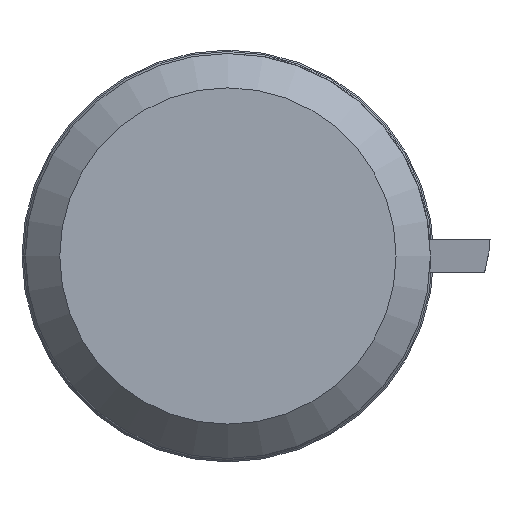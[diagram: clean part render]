
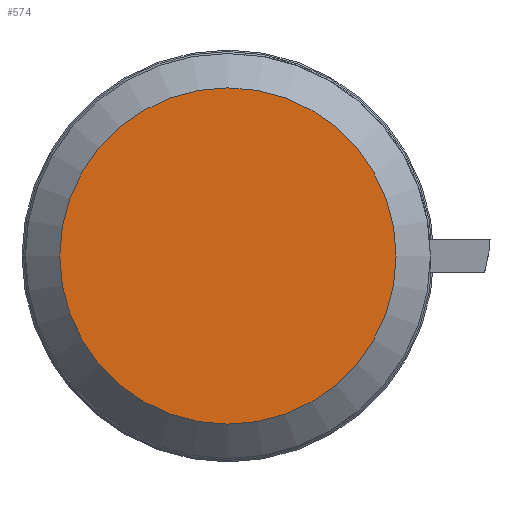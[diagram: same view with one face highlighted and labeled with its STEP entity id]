
A CAD part, left-side view. The second image highlights one B-rep face of the part: STEP entity #574.
In plain terms, the highlighted planar face has unit normal (-1, 0, 0).
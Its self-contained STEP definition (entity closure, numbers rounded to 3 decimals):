
#50=CIRCLE('',#654,4.9);
#97=FACE_OUTER_BOUND('',#131,.T.);
#131=EDGE_LOOP('',(#490));
#263=VERTEX_POINT('',#1042);
#338=EDGE_CURVE('',#263,#263,#50,.T.);
#490=ORIENTED_EDGE('',*,*,#338,.T.);
#510=PLANE('',#655);
#574=ADVANCED_FACE('',(#97),#510,.T.);
#654=AXIS2_PLACEMENT_3D('',#1043,#814,#815);
#655=AXIS2_PLACEMENT_3D('',#1045,#817,#818);
#814=DIRECTION('center_axis',(-1.,0.,0.));
#815=DIRECTION('ref_axis',(0.,0.,1.));
#817=DIRECTION('center_axis',(-1.,0.,0.));
#818=DIRECTION('ref_axis',(0.,0.,1.));
#1042=CARTESIAN_POINT('',(0.,4.9,0.));
#1043=CARTESIAN_POINT('Origin',(0.,0.,0.));
#1045=CARTESIAN_POINT('Origin',(0.,0.,0.));
